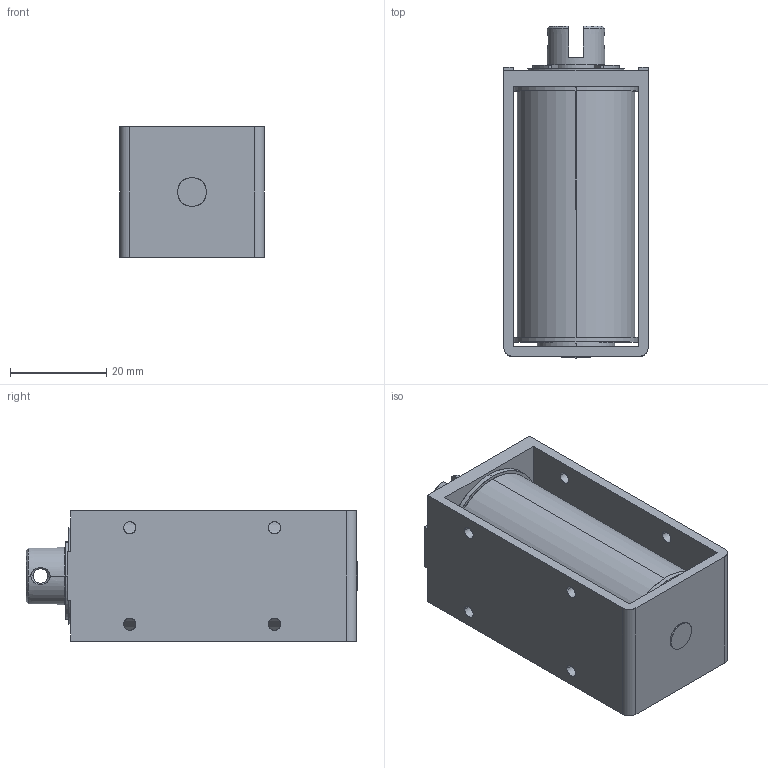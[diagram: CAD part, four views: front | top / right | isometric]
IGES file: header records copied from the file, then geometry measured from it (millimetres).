
Start section: SolidWorks IGES file using analytic representation for surfaces
Global section: file name: L:\カタログ\web用3Dデータ\CE1260\3D_CE1260\w_ce1260.IGS; native system: SolidWorks 2014; preprocessor: SolidWorks 2014; author: jiba; date: 140724.140546; units: millimetre
Bounding box: 30 x 68.8 x 27 mm (x, y, z)
Surface area: 18242.4 mm2 (no closed solid volume)
Topology: 0 solids, 0 shells, 117 faces, 2231 edges, 2231 vertices
Faces by surface type: revolution 70, bspline 47
